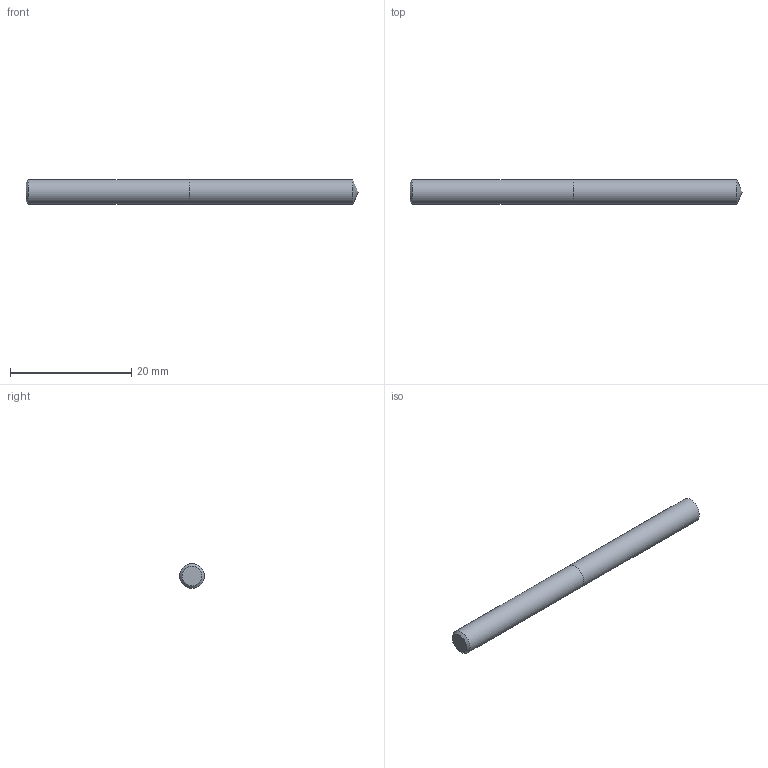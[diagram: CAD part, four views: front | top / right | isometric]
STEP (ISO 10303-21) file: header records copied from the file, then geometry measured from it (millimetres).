
FILE_DESCRIPTION (( 'STEP AP214' ), '1' );
FILE_NAME ('03-2362.STEP', '2022-06-03T06:44:42', ( 'USER' ), ( '' ), 'SwSTEP 2.0', 'SolidWorks 2018', '' );
FILE_SCHEMA (( 'AUTOMOTIVE_DESIGN' ));
Length unit declared in the file: inch
Products named in the file (1): 03-2362
Bounding box: 54.82 x 4.09 x 4.09 mm (x, y, z)
Volume: 711.6 mm3; surface area: 743.8 mm2
Topology: 2 solids, 2 shells, 7 faces, 11 edges, 7 vertices
Faces by surface type: plane 3, cylinder 2, cone 2
Full cylindrical faces by diameter (mm): 4.089 x2
Entity records: 214 total; most frequent: DIRECTION 26, CARTESIAN_POINT 18, AXIS2_PLACEMENT_3D 13, ORIENTED_EDGE 10, EDGE_LOOP 10, FACE_OUTER_BOUND 9, ADVANCED_FACE 7, LENGTH_MEASURE_WITH_UNIT 7
